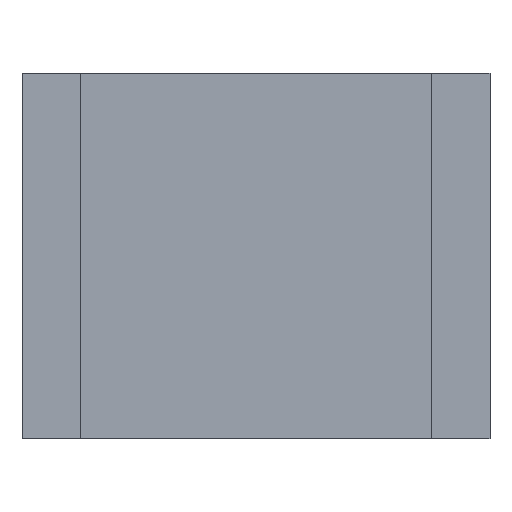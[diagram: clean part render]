
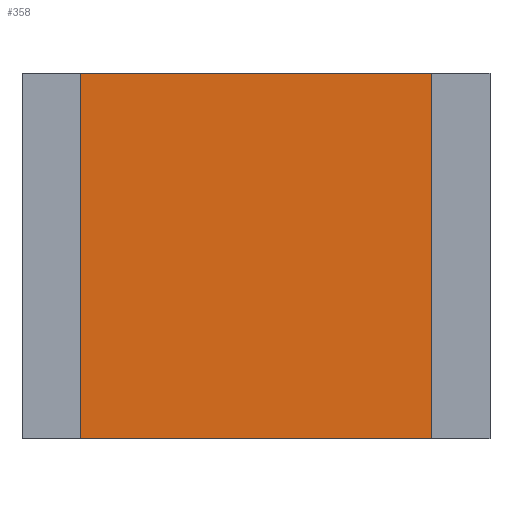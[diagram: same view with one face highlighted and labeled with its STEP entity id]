
A CAD part, top view. The second image highlights one B-rep face of the part: STEP entity #358.
In plain terms, the highlighted planar face has unit normal (0, 0, 1).
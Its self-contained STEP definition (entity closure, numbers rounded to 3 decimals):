
#358=ADVANCED_FACE('',(#586),#588,.T.);
#586=FACE_BOUND('',#587,.T.);
#587=EDGE_LOOP('',(#736,#737,#738,#739));
#588=PLANE('',#589);
#589=AXIS2_PLACEMENT_3D('',#590,#591,#592);
#590=CARTESIAN_POINT('',(0.,0.,0.59));
#591=DIRECTION('',(0.,0.,1.));
#592=DIRECTION('',(-1.,0.,0.));
#736=ORIENTED_EDGE('',*,*,#806,.T.);
#737=ORIENTED_EDGE('',*,*,#810,.T.);
#738=ORIENTED_EDGE('',*,*,#813,.T.);
#739=ORIENTED_EDGE('',*,*,#815,.T.);
#806=EDGE_CURVE('',#921,#919,#922,.T.);
#810=EDGE_CURVE('',#919,#926,#928,.T.);
#813=EDGE_CURVE('',#926,#931,#933,.T.);
#815=EDGE_CURVE('',#931,#921,#935,.T.);
#919=VERTEX_POINT('',#1161);
#921=VERTEX_POINT('',#1165);
#922=LINE('',#1166,#1167);
#926=VERTEX_POINT('',#1176);
#928=LINE('',#1180,#1181);
#931=VERTEX_POINT('',#1187);
#933=LINE('',#1191,#1192);
#935=LINE('',#1197,#1198);
#1161=CARTESIAN_POINT('',(-1.2,-1.25,0.59));
#1165=CARTESIAN_POINT('',(-1.2,1.25,0.59));
#1166=CARTESIAN_POINT('',(-1.2,1.25,0.59));
#1167=VECTOR('',#1168,1.);
#1168=DIRECTION('',(0.,-1.,0.));
#1176=CARTESIAN_POINT('',(1.2,-1.25,0.59));
#1180=CARTESIAN_POINT('',(-1.2,-1.25,0.59));
#1181=VECTOR('',#1182,1.);
#1182=DIRECTION('',(1.,0.,0.));
#1187=CARTESIAN_POINT('',(1.2,1.25,0.59));
#1191=CARTESIAN_POINT('',(1.2,-1.25,0.59));
#1192=VECTOR('',#1193,1.);
#1193=DIRECTION('',(0.,1.,0.));
#1197=CARTESIAN_POINT('',(1.2,1.25,0.59));
#1198=VECTOR('',#1199,1.);
#1199=DIRECTION('',(-1.,0.,0.));
